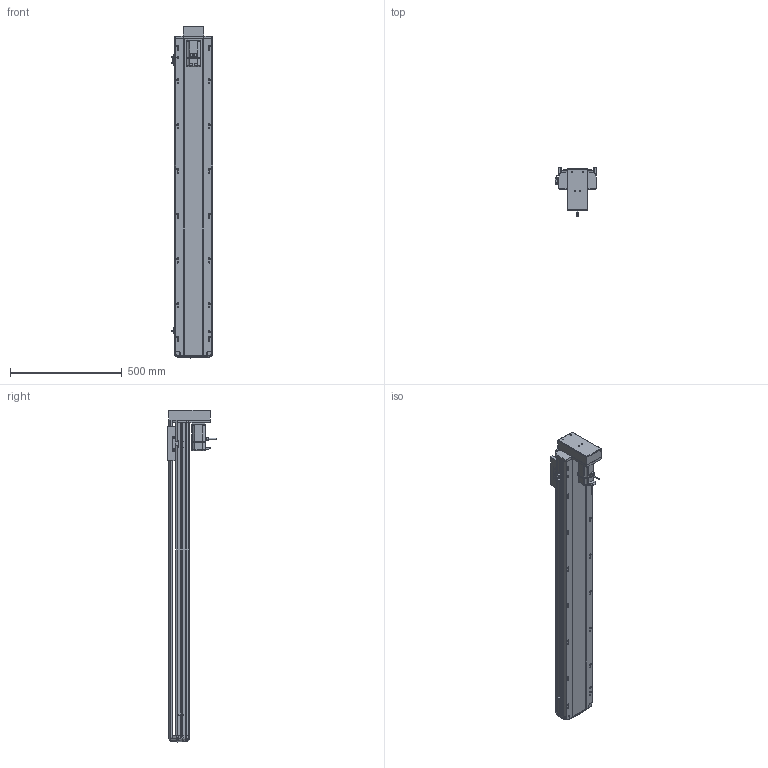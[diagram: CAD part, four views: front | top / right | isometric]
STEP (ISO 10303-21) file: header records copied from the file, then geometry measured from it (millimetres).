
FILE_DESCRIPTION (( 'STEP AP214' ), '1' );
FILE_NAME ('RTH17-XX-1200-M-M40-C4.STEP', '2025-10-24T09:10:08', ( '' ), ( '' ), 'SwSTEP 2.0', 'SolidWorks 2018', '' );
FILE_SCHEMA (( 'AUTOMOTIVE_DESIGN' ));
Length unit declared in the file: millimetre
Products named in the file (10): N_RTH17-M-018盖子^RTH17-XX-XX-M-M40-C4（方程式）; RTH17-XX-1200-M-M40-C4; N_RTH-BL-012 感应片(外置)^RTH17-XX-XX-M-M40-C4（方程式）; N_RTH17-M-008-P40电机安装板下折^RTH17-XX-XX-M-M40-C4（方程式）; N_M40^RTH17-XX-XX-M-M40-C4（方程式）; N_RTH17-M-007上盖^RTH17-XX-XX-M-M40-C4（方程式）; N_OMRON EE-SX672 換覜ん^RTH17-XX-XX-M-M40-C4ㄗ源最宒ㄘ; N_RTH17-M-011底座^RTH17-XX-XX-M-M40-C4（方程式）; N_RTH17-E-004丝杆螺母连接座^RTH17-XX-XX-M-M40-C4（方程式）; N_RTH17-GY-001P^RTH17-XX-XX-M-M40-C4（方程式）
Assembly tree (11 placements, depth 2):
  RTH17-XX-1200-M-M40-C4
    N_RTH17-M-011底座^RTH17-XX-XX-M-M40-C4（方程式）
    N_RTH17-M-007上盖^RTH17-XX-XX-M-M40-C4（方程式）
    N_M40^RTH17-XX-XX-M-M40-C4（方程式）
    N_OMRON EE-SX672 換覜ん^RTH17-XX-XX-M-M40-C4ㄗ源最宒ㄘ  x3
    N_RTH-BL-012 感应片(外置)^RTH17-XX-XX-M-M40-C4（方程式）
    N_RTH17-M-008-P40电机安装板下折^RTH17-XX-XX-M-M40-C4（方程式）
    N_RTH17-M-018盖子^RTH17-XX-XX-M-M40-C4（方程式）
    N_RTH17-E-004丝杆螺母连接座^RTH17-XX-XX-M-M40-C4（方程式）
    N_RTH17-GY-001P^RTH17-XX-XX-M-M40-C4（方程式）
Bounding box: 183.5 x 219 x 1483.19 mm (x, y, z)
Volume: 11265119.5 mm3; surface area: 1562195.2 mm2
Topology: 10 solids, 12 shells, 1695 faces, 4752 edges, 3100 vertices
Faces by surface type: plane 836, cylinder 492, bspline 330, cone 28, torus 9
Entity records: 50120 total; most frequent: CARTESIAN_POINT 20168, ORIENTED_EDGE 6528, DIRECTION 5380, EDGE_CURVE 3268, VERTEX_POINT 2136, VECTOR 1810, LINE 1810, AXIS2_PLACEMENT_3D 1785
